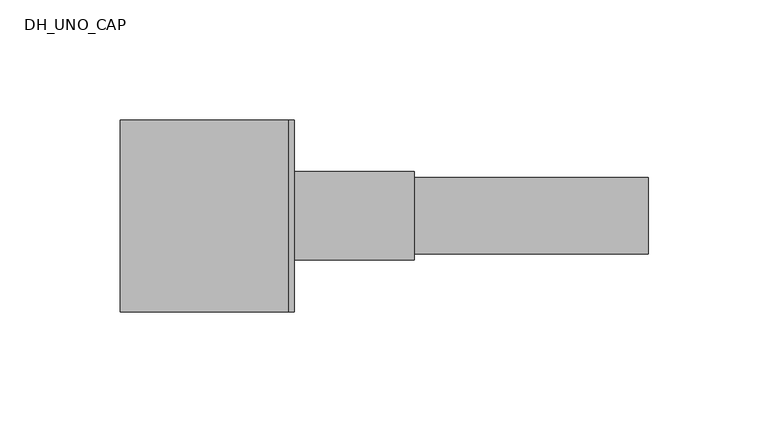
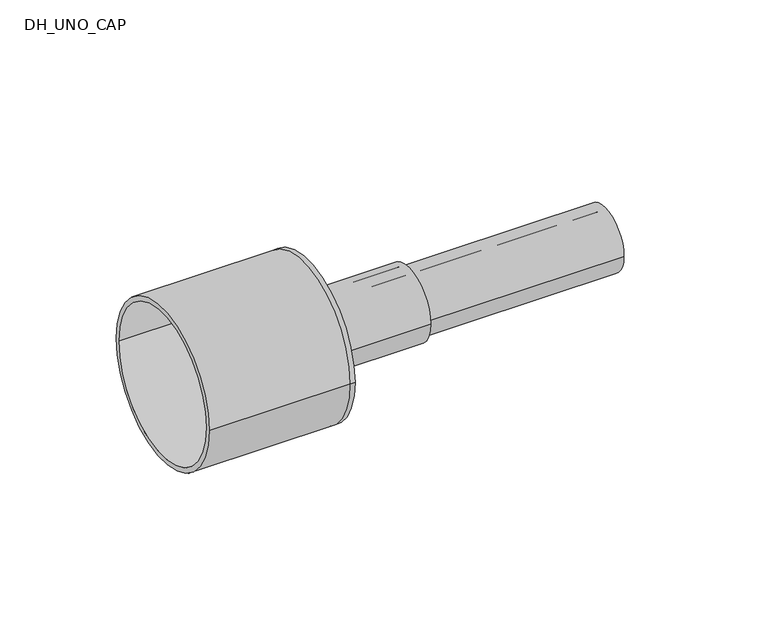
"""IFC4 building model written with IfcOpenShell, lengths in millimetres: pipe fitting geometry, DH_UNO_CAP : INSULPEX UNO 7.4 DW - Rubber Cap."""

from ifc_helpers import new_model, si_unit, point, frame, origin, origin_2d, place, context, project, spatial, polyline, circle_curve, trimmed, segment, composite_curve, outline, extrude, source, transform, mapped, element, save
from ifc_brep_helpers import plane_surface, cylinder_surface, revolved_surface, advanced_brep


def dh_uno_cap_f05d5978(model_context):
    return source(origin(), model_context, "Body", "SolidModel", [
        extrude(outline(composite_curve([segment(trimmed(circle_curve(origin_2d(), 16.0), [point((-16.0, 0.0))], [point((16.0, 0.0))], False, "CARTESIAN"), True, "CONTINUOUS"), segment(trimmed(circle_curve(origin_2d(), 16.0), [point((16.0, 0.0))], [point((-16.0, 0.0))], False, "CARTESIAN"), True, "CONTINUOUS")], self_intersect=False), holes=[composite_curve([segment(trimmed(circle_curve(origin_2d(), 11.6), [point((-11.6, 0.0))], [point((11.6, 0.0))], True, "CARTESIAN"), True, "CONTINUOUS"), segment(trimmed(circle_curve(origin_2d(), 11.6), [point((11.6, 0.0))], [point((-11.6, 0.0))], True, "CARTESIAN"), True, "CONTINUOUS")], self_intersect=False)]), frame((0.0, 0.0, 0.0), z_axis=(1.0, 0.0, 0.0), x_axis=(0.0, 1.0, 0.0)), (0.0, 0.0, 1.0), 150.0),
        advanced_brep(
        [(-70.0, -40.0, 0.0), (-70.0, 40.0, 0.0), (-70.0, -37.5, 0.0), (-70.0, 37.5, 0.0), (0.0, -37.5, 0.0), (0.0, 37.5, 0.0), (0.0, -40.0, 0.0), (0.0, 40.0, 0.0), (0.0, 16.0, 0.0), (0.0, -16.0, 0.0), (2.5, -40.0, 0.0), (2.5, 40.0, 0.0), (2.5, -16.0, 0.0), (2.5, 16.0, 0.0)],
        [
            (0, 1, circle_curve(frame((-70.0, 0.0, 0.0), z_axis=(-1.0, 0.0, 0.0), x_axis=(0.0, 1.0, 0.0)), 40.0)),
            (1, 0, circle_curve(frame((-70.0, 0.0, 0.0), z_axis=(-1.0, 0.0, 0.0), x_axis=(0.0, 1.0, 0.0)), 40.0)),
            (2, 3, circle_curve(frame((-70.0, 0.0, 0.0), z_axis=(1.0, 0.0, 0.0), x_axis=(0.0, 1.0, 0.0)), 37.5)),
            (3, 2, circle_curve(frame((-70.0, 0.0, 0.0), z_axis=(1.0, 0.0, 0.0), x_axis=(0.0, 1.0, 0.0)), 37.5)),
            (2, 4),
            (4, 5, circle_curve(frame((0.0, 0.0, 0.0), z_axis=(1.0, 0.0, 0.0), x_axis=(0.0, 1.0, 0.0)), 37.5)),
            (5, 3),
            (5, 4, circle_curve(frame((0.0, 0.0, 0.0), z_axis=(1.0, 0.0, 0.0), x_axis=(0.0, 1.0, 0.0)), 37.5)),
            (0, 6),
            (6, 7, circle_curve(frame((0.0, 0.0, 0.0), z_axis=(-1.0, 0.0, 0.0), x_axis=(0.0, 1.0, 0.0)), 40.0)),
            (7, 1),
            (7, 6, circle_curve(frame((0.0, 0.0, 0.0), z_axis=(-1.0, 0.0, 0.0), x_axis=(0.0, 1.0, 0.0)), 40.0)),
            (8, 9, circle_curve(frame((0.0, 0.0, 0.0), z_axis=(1.0, 0.0, 0.0), x_axis=(0.0, 1.0, 0.0)), 16.0)),
            (9, 8, circle_curve(frame((0.0, 0.0, 0.0), z_axis=(1.0, 0.0, 0.0), x_axis=(0.0, 1.0, 0.0)), 16.0)),
            (10, 11, circle_curve(frame((2.5, 0.0, 0.0), z_axis=(1.0, 0.0, 0.0), x_axis=(0.0, 1.0, 0.0)), 40.0)),
            (11, 10, circle_curve(frame((2.5, 0.0, 0.0), z_axis=(1.0, 0.0, 0.0), x_axis=(0.0, 1.0, 0.0)), 40.0)),
            (12, 13, circle_curve(frame((2.5, 0.0, 0.0), z_axis=(-1.0, 0.0, 0.0), x_axis=(0.0, 1.0, 0.0)), 16.0)),
            (13, 12, circle_curve(frame((2.5, 0.0, 0.0), z_axis=(-1.0, 0.0, 0.0), x_axis=(0.0, 1.0, 0.0)), 16.0)),
            (11, 7),
            (6, 10),
            (8, 13),
            (12, 9),
        ],
        [
            plane_surface(frame((-70.0, 0.0, 0.0), z_axis=(-1.0, 0.0, 0.0), x_axis=(0.0, 0.0, 1.0))),
            revolved_surface(polyline([(0.0, 37.5, 0.0), (-70.0, 37.5, 0.0)]), (-70.0, 0.0, 0.0), (1.0, 0.0, 0.0)),
            cylinder_surface(frame((-70.0, 0.0, 0.0), z_axis=(-1.0, 0.0, 0.0), x_axis=(0.0, 1.0, 0.0)), 40.0),
            plane_surface(frame((0.0, 0.0, 0.0), z_axis=(-1.0, 0.0, 0.0), x_axis=(0.0, 0.0, 1.0))),
            plane_surface(frame((2.5, 0.0, 0.0), z_axis=(1.0, 0.0, 0.0), x_axis=(0.0, 0.0, 1.0))),
            cylinder_surface(frame((0.0, 0.0, 0.0), z_axis=(-1.0, 0.0, 0.0), x_axis=(0.0, 1.0, 0.0)), 40.0),
            revolved_surface(polyline([(0.0, 16.0, 0.0), (2.5, 16.0, 0.0)]), (0.0, 0.0, 0.0), (-1.0, 0.0, 0.0)),
        ],
        [
            (0, [[1, 2], [3, 4]]),
            (1, [[-3, 5, 6, 7]]),
            (1, [[-4, -7, 8, -5]]),
            (2, [[-1, 9, 10, 11]]),
            (2, [[-2, -11, 12, -9]]),
            (3, [[-6, -8], [13, 14]]),
            (4, [[15, 16], [17, 18]]),
            (5, [[-16, 19, -10, 20]]),
            (5, [[-15, -20, -12, -19]]),
            (6, [[21, -17, 22, -13]]),
            (6, [[-21, -14, -22, -18]]),
        ],
    ),
        extrude(outline(composite_curve([segment(trimmed(circle_curve(origin_2d(), 18.5), [point((-18.5, 0.0))], [point((18.5, 0.0))], False, "CARTESIAN"), True, "CONTINUOUS"), segment(trimmed(circle_curve(origin_2d(), 18.5), [point((18.5, 0.0))], [point((-18.5, 0.0))], False, "CARTESIAN"), True, "CONTINUOUS")], self_intersect=False), holes=[composite_curve([segment(trimmed(circle_curve(origin_2d(), 16.0), [point((-16.0, 0.0))], [point((16.0, 0.0))], True, "CARTESIAN"), True, "CONTINUOUS"), segment(trimmed(circle_curve(origin_2d(), 16.0), [point((16.0, 0.0))], [point((-16.0, 0.0))], True, "CARTESIAN"), True, "CONTINUOUS")], self_intersect=False)]), frame((2.5, 0.0, 0.0), z_axis=(1.0, 0.0, 0.0), x_axis=(0.0, 1.0, 0.0)), (0.0, 0.0, 1.0), 50.0),
    ])


if __name__ == "__main__":
    model = new_model("IFC4")
    model_context = context("Model", 3, world=origin())
    ifc_project = project(units=[si_unit("LENGTHUNIT", "METRE", prefix="MILLI")], contexts=[model_context])
    site = spatial("IfcSite", under=ifc_project)
    building = spatial("IfcBuilding", under=site)
    placement = place(None, origin())
    dh_uno_cap_shape = dh_uno_cap_f05d5978(model_context)
    element("IfcPipeFitting", 1, ObjectType="DH_UNO_CAP : INSULPEX UNO 7.4 DW - Rubber Cap", at=placement, inside=building, context=model_context, shape_type="MappedRepresentation", body=[
        mapped(dh_uno_cap_shape, transform((0.0, 0.0, 0.0), x_axis=(1.0, 0.0, 0.0), y_axis=(0.0, 1.0, 0.0), z_axis=(0.0, 0.0, 1.0))),
    ])
    save(model, "model.ifc")
